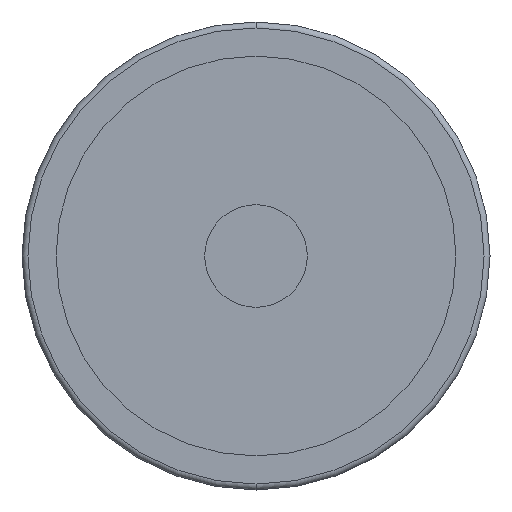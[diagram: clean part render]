
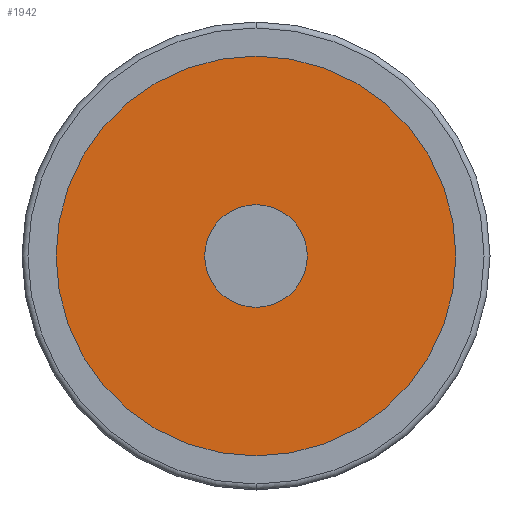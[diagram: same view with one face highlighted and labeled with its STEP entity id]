
A CAD part, front view. The second image highlights one B-rep face of the part: STEP entity #1942.
In plain terms, the highlighted planar face has unit normal (0, -1, 0).
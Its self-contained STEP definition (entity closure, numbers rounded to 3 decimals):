
#22 = ORIENTED_EDGE ( 'NONE', *, *, #3219, .F. ) ;
#47 = PLANE ( 'NONE',  #713 ) ;
#59 = DIRECTION ( 'NONE',  ( 0., -1., 0. ) ) ;
#66 = CARTESIAN_POINT ( 'NONE',  ( 8., 4.5, 0. ) ) ;
#167 = CIRCLE ( 'NONE', #1525, 8. ) ;
#218 = VERTEX_POINT ( 'NONE', #66 ) ;
#239 = CARTESIAN_POINT ( 'NONE',  ( 34.25, 4.5, 0. ) ) ;
#304 = DIRECTION ( 'NONE',  ( 1., 0., 0. ) ) ;
#330 = EDGE_CURVE ( 'NONE', #3046, #218, #2950, .T. ) ;
#366 = DIRECTION ( 'NONE',  ( 1., 0., 0. ) ) ;
#413 = CARTESIAN_POINT ( 'NONE',  ( 0., 4.5, 0. ) ) ;
#514 = FACE_OUTER_BOUND ( 'NONE', #1568, .T. ) ;
#619 = CARTESIAN_POINT ( 'NONE',  ( 0., 4.5, 0. ) ) ;
#713 = AXIS2_PLACEMENT_3D ( 'NONE', #768, #59, #2047 ) ;
#768 = CARTESIAN_POINT ( 'NONE',  ( -34.25, 4.5, 0. ) ) ;
#785 = VERTEX_POINT ( 'NONE', #239 ) ;
#807 = ORIENTED_EDGE ( 'NONE', *, *, #2614, .T. ) ;
#956 = AXIS2_PLACEMENT_3D ( 'NONE', #1393, #1889, #1663 ) ;
#1328 = AXIS2_PLACEMENT_3D ( 'NONE', #619, #2394, #2378 ) ;
#1393 = CARTESIAN_POINT ( 'NONE',  ( 0., 4.5, 0. ) ) ;
#1396 = EDGE_CURVE ( 'NONE', #785, #2001, #2493, .T. ) ;
#1498 = AXIS2_PLACEMENT_3D ( 'NONE', #413, #2140, #366 ) ;
#1525 = AXIS2_PLACEMENT_3D ( 'NONE', #2076, #3045, #304 ) ;
#1568 = EDGE_LOOP ( 'NONE', ( #807, #1977 ) ) ;
#1663 = DIRECTION ( 'NONE',  ( 1., 0., 0. ) ) ;
#1792 = CARTESIAN_POINT ( 'NONE',  ( -34.25, 4.5, 0. ) ) ;
#1889 = DIRECTION ( 'NONE',  ( 0., -1., 0. ) ) ;
#1921 = CARTESIAN_POINT ( 'NONE',  ( -8., 4.5, 0. ) ) ;
#1941 = ORIENTED_EDGE ( 'NONE', *, *, #330, .F. ) ;
#1942 = ADVANCED_FACE ( 'NONE', ( #514, #3051 ), #47, .T. ) ;
#1977 = ORIENTED_EDGE ( 'NONE', *, *, #1396, .T. ) ;
#2001 = VERTEX_POINT ( 'NONE', #1792 ) ;
#2047 = DIRECTION ( 'NONE',  ( 1., 0., 0. ) ) ;
#2076 = CARTESIAN_POINT ( 'NONE',  ( 0., 4.5, 0. ) ) ;
#2114 = CIRCLE ( 'NONE', #956, 34.25 ) ;
#2140 = DIRECTION ( 'NONE',  ( 0., -1., 0. ) ) ;
#2293 = EDGE_LOOP ( 'NONE', ( #22, #1941 ) ) ;
#2378 = DIRECTION ( 'NONE',  ( 1., 0., 0. ) ) ;
#2394 = DIRECTION ( 'NONE',  ( 0., -1., 0. ) ) ;
#2493 = CIRCLE ( 'NONE', #1498, 34.25 ) ;
#2614 = EDGE_CURVE ( 'NONE', #2001, #785, #2114, .T. ) ;
#2950 = CIRCLE ( 'NONE', #1328, 8. ) ;
#3045 = DIRECTION ( 'NONE',  ( 0., -1., 0. ) ) ;
#3046 = VERTEX_POINT ( 'NONE', #1921 ) ;
#3051 = FACE_BOUND ( 'NONE', #2293, .T. ) ;
#3219 = EDGE_CURVE ( 'NONE', #218, #3046, #167, .T. ) ;
